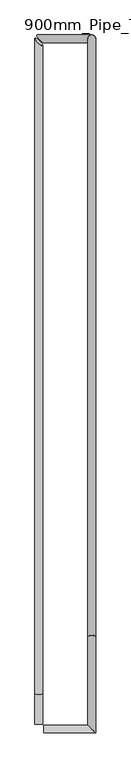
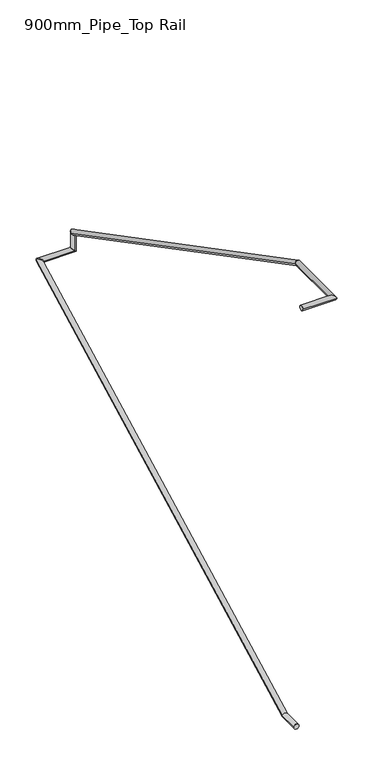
"""IFC4 building model written with IfcOpenShell, lengths in millimetres: railing geometry, 900mm_Pipe_Top Rail."""

from ifc_helpers import new_model, si_unit, frame, origin, place, context, project, spatial, circle_curve, ellipse_curve, source, transform, mapped, element, save
from ifc_brep_helpers import plane_surface, cylinder_surface, advanced_brep


def railing_900mm_pipe_top_rail_91aa5f4a(model_context):
    return source(origin(), model_context, "Body", "AdvancedBrep", [
        advanced_brep(
        [(-12195.3216429, -3435.1012772, -620.0), (-12235.3216429, -3435.1012772, -620.0), (-12195.3216429, 6.4500008, 1098.0104069), (-12235.3216429, 41.8990186, 1116.5405753), (-12195.3216429, -3280.1786038, -620.0), (-12235.3216429, -3280.1786038, -620.0)],
        [
            (0, 1, circle_curve(frame((-12215.3216429, -3435.1012772, -620.0), z_axis=(0.0, -1.0, 0.0), x_axis=(-1.0, 0.0, 0.0)), 20.0)),
            (1, 0, circle_curve(frame((-12215.3216429, -3435.1012772, -620.0), z_axis=(0.0, -1.0, 0.0), x_axis=(-1.0, 0.0, 0.0)), 20.0)),
            (2, 3, ellipse_curve(frame((-12215.3216429, 24.1745097, 1107.2754911), z_axis=(0.7071067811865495, 0.6266560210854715, 0.32757019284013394), x_axis=(0.7071067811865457, -0.6266560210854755, -0.3275701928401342)), 28.2842712, 20.0)),
            (3, 2, ellipse_curve(frame((-12215.3216429, 24.1745097, 1107.2754911), z_axis=(0.7071067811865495, 0.6266560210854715, 0.32757019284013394), x_axis=(0.7071067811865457, -0.6266560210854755, -0.3275701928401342)), 28.2842712, 20.0)),
            (0, 4),
            (4, 5, ellipse_curve(frame((-12215.3216429, -3280.1786038, -620.0), z_axis=(0.0, -0.9711399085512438, -0.23851054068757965), x_axis=(0.0, -0.23851054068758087, 0.9711399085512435)), 20.594355, 20.0)),
            (5, 1),
            (5, 4, ellipse_curve(frame((-12215.3216429, -3280.1786038, -620.0), z_axis=(0.0, -0.9711399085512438, -0.23851054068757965), x_axis=(0.0, -0.23851054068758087, 0.9711399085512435)), 20.594355, 20.0)),
            (4, 2),
            (3, 5),
        ],
        [
            plane_surface(frame((-12215.3216429, -3435.1012772, -600.0), z_axis=(0.0, -1.0, 0.0), x_axis=(0.0, 0.0, 1.0))),
            plane_surface(frame((-12215.3216429, 14.9094255, 1125.0), z_axis=(0.7071067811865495, 0.6266560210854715, 0.32757019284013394), x_axis=(0.7071067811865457, -0.6266560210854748, -0.32757019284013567))),
            cylinder_surface(frame((-12215.3216429, -3435.1012772, -620.0), z_axis=(0.0, -1.0, 0.0), x_axis=(-1.0, 0.0, 0.0)), 20.0),
            cylinder_surface(frame((-12215.3216429, -3275.8254903, -617.7245089), z_axis=(0.0, -0.8862254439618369, -0.4632542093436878), x_axis=(-1.0, 0.0, 0.0)), 20.0),
        ],
        [
            (0, [[1, 2]]),
            (1, [[3, 4]]),
            (2, [[-1, 5, 6, 7]]),
            (2, [[-2, -7, 8, -5]]),
            (3, [[-6, 9, -4, 10]]),
            (3, [[-8, -10, -3, -9]]),
        ],
    ),
        advanced_brep(
        [(-12188.3320499, 19.9094255, 1105.0), (-12223.7810676, 59.9094255, 1105.0), (-11946.7871484, 19.9094255, 1105.0), (-11946.7871484, 59.9094255, 1105.0)],
        [
            (0, 1, ellipse_curve(frame((-12206.0565588, 39.9094255, 1105.0), z_axis=(-0.7071067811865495, -0.6266560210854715, -0.32757019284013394), x_axis=(-0.7071067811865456, 0.6266560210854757, 0.3275701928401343)), 28.2842712, 20.0)),
            (1, 0, ellipse_curve(frame((-12206.0565588, 39.9094255, 1105.0), z_axis=(-0.7071067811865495, -0.6266560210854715, -0.32757019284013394), x_axis=(-0.7071067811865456, 0.6266560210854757, 0.3275701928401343)), 28.2842712, 20.0)),
            (2, 3, ellipse_curve(frame((-11946.7871484, 39.9094255, 1105.0), z_axis=(0.7071067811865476, 0.0, 0.7071067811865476), x_axis=(-0.7071067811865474, 0.0, 0.7071067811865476)), 28.2842712, 20.0)),
            (3, 2, ellipse_curve(frame((-11946.7871484, 39.9094255, 1105.0), z_axis=(0.7071067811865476, 0.0, 0.7071067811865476), x_axis=(-0.7071067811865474, 0.0, 0.7071067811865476)), 28.2842712, 20.0)),
            (0, 2),
            (3, 1),
        ],
        [
            plane_surface(frame((-12215.3216429, 39.9094255, 1125.0), z_axis=(-0.7071067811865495, -0.6266560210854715, -0.32757019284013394), x_axis=(0.7071067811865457, -0.6266560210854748, -0.32757019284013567))),
            plane_surface(frame((-11966.7871484, 39.9094255, 1125.0), z_axis=(0.7071067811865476, 0.0, 0.7071067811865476), x_axis=(0.7071067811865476, 0.0, -0.7071067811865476))),
            cylinder_surface(frame((-12215.3216429, 39.9094255, 1105.0), z_axis=(-1.0, 0.0, 0.0), x_axis=(0.0, 1.0, 0.0)), 20.0),
        ],
        [
            (0, [[1, 2]]),
            (1, [[3, 4]]),
            (2, [[-1, 5, -4, 6]]),
            (2, [[-2, -6, -3, -5]]),
        ],
    ),
        advanced_brep(
        [(-11946.7871484, 19.9094255, 1105.0), (-11946.7871484, 59.9094255, 1105.0), (-11946.7871484, 19.9094255, 1234.0693033), (-11946.7871484, 59.9094255, 1258.2954545)],
        [
            (0, 1, ellipse_curve(frame((-11946.7871484, 39.9094255, 1105.0), z_axis=(-0.7071067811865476, 0.0, -0.7071067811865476), x_axis=(0.7071067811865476, 0.0, -0.7071067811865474)), 28.2842712, 20.0)),
            (1, 0, ellipse_curve(frame((-11946.7871484, 39.9094255, 1105.0), z_axis=(-0.7071067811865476, 0.0, -0.7071067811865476), x_axis=(0.7071067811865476, 0.0, -0.7071067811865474)), 28.2842712, 20.0)),
            (2, 3, ellipse_curve(frame((-11946.7871484, 39.9094255, 1246.1823789), z_axis=(0.0, -0.5180471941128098, 0.8553520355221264), x_axis=(0.0, -0.8553520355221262, -0.5180471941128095)), 23.3821855, 20.0)),
            (3, 2, ellipse_curve(frame((-11946.7871484, 39.9094255, 1246.1823789), z_axis=(0.0, -0.5180471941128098, 0.8553520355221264), x_axis=(0.0, -0.8553520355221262, -0.5180471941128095)), 23.3821855, 20.0)),
            (0, 2),
            (3, 1),
        ],
        [
            plane_surface(frame((-11946.7871484, 39.9094255, 1105.0), z_axis=(-0.7071067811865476, 0.0, -0.7071067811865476), x_axis=(0.7071067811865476, 0.0, -0.7071067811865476))),
            plane_surface(frame((-11946.7871484, 39.9094255, 1246.1823789), z_axis=(0.0, -0.5180471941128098, 0.8553520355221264), x_axis=(1.0, 0.0, 0.0))),
            cylinder_surface(frame((-11946.7871484, 39.9094255, 1105.0), z_axis=(0.0, 0.0, -1.0), x_axis=(0.0, 1.0, 0.0)), 20.0),
        ],
        [
            (0, [[1, 2]]),
            (1, [[3, 4]]),
            (2, [[-1, 5, -4, 6]]),
            (2, [[-2, -6, -3, -5]]),
        ],
    ),
        advanced_brep(
        [(-11966.7871484, 39.9094255, 1246.1823789), (-11926.7871484, 39.9094255, 1246.1823789), (-12190.3216429, -3440.1012772, 2830.0), (-12190.3216429, -3480.1012772, 2830.0), (-11966.7871484, -2990.0025452, 2830.0), (-11926.7871484, -2990.0025452, 2830.0), (-11966.7871484, -3440.1012772, 2830.0), (-11926.7871484, -3480.1012772, 2830.0)],
        [
            (0, 1, ellipse_curve(frame((-11946.7871484, 39.9094255, 1246.1823789), z_axis=(0.0, 0.5180471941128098, -0.8553520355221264), x_axis=(0.0, 0.8553520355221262, 0.5180471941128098)), 23.3821855, 20.0)),
            (1, 0, ellipse_curve(frame((-11946.7871484, 39.9094255, 1246.1823789), z_axis=(0.0, 0.5180471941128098, -0.8553520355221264), x_axis=(0.0, 0.8553520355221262, 0.5180471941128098)), 23.3821855, 20.0)),
            (2, 3, circle_curve(frame((-12190.3216429, -3460.1012772, 2830.0), z_axis=(-1.0, 0.0, 0.0), x_axis=(0.0, -1.0, 0.0)), 20.0)),
            (3, 2, circle_curve(frame((-12190.3216429, -3460.1012772, 2830.0), z_axis=(-1.0, 0.0, 0.0), x_axis=(0.0, -1.0, 0.0)), 20.0)),
            (0, 4),
            (4, 5, ellipse_curve(frame((-11946.7871484, -2990.0025452, 2830.0), z_axis=(0.0, 0.9711399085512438, -0.23851054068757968), x_axis=(0.0, -0.23851054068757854, -0.9711399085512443)), 20.594355, 20.0)),
            (5, 1),
            (5, 4, ellipse_curve(frame((-11946.7871484, -2990.0025452, 2830.0), z_axis=(0.0, 0.9711399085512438, -0.23851054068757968), x_axis=(0.0, -0.23851054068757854, -0.9711399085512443)), 20.594355, 20.0)),
            (4, 6),
            (6, 7, ellipse_curve(frame((-11946.7871484, -3460.1012772, 2830.0), z_axis=(0.7071067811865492, 0.7071067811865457, 0.0), x_axis=(-0.7071067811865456, 0.7071067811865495, 0.0)), 28.2842712, 20.0)),
            (7, 5),
            (7, 6, ellipse_curve(frame((-11946.7871484, -3460.1012772, 2830.0), z_axis=(0.7071067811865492, 0.7071067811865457, 0.0), x_axis=(-0.7071067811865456, 0.7071067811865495, 0.0)), 28.2842712, 20.0)),
            (6, 2),
            (3, 7),
        ],
        [
            plane_surface(frame((-11946.7871484, 59.9094255, 1258.2954545), z_axis=(0.0, 0.5180471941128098, -0.8553520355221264), x_axis=(1.0, 0.0, 0.0))),
            plane_surface(frame((-12190.3216429, -3460.1012772, 2850.0), z_axis=(-1.0, 0.0, 0.0), x_axis=(0.0, -1.0, 0.0))),
            cylinder_surface(frame((-11946.7871484, 50.6443413, 1240.5709457), z_axis=(0.0, 0.8862254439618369, -0.46325420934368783), x_axis=(1.0, 0.0, 0.0)), 20.0),
            cylinder_surface(frame((-11946.7871484, -2985.0905745, 2830.0), z_axis=(0.0, 1.0, 0.0), x_axis=(1.0, 0.0, 0.0)), 20.0),
            cylinder_surface(frame((-11946.7871484, -3460.1012772, 2830.0), z_axis=(1.0, 0.0, 0.0), x_axis=(0.0, -1.0, 0.0)), 20.0),
        ],
        [
            (0, [[1, 2]]),
            (1, [[3, 4]]),
            (2, [[-1, 5, 6, 7]]),
            (2, [[-2, -7, 8, -5]]),
            (3, [[-6, 9, 10, 11]]),
            (3, [[-8, -11, 12, -9]]),
            (4, [[-10, 13, -4, 14]]),
            (4, [[-12, -14, -3, -13]]),
        ],
    ),
    ])


if __name__ == "__main__":
    model = new_model("IFC4")
    model_context = context("Model", 3, world=origin())
    ifc_project = project(units=[si_unit("LENGTHUNIT", "METRE", prefix="MILLI")], contexts=[model_context])
    site = spatial("IfcSite", under=ifc_project)
    building = spatial("IfcBuilding", under=site)
    placement = place(None, origin())
    railing_900mm_pipe_top_rail_shape = railing_900mm_pipe_top_rail_91aa5f4a(model_context)
    element("IfcRailing", 1, ObjectType="900mm_Pipe_Top Rail", at=placement, inside=building, context=model_context, shape_type="MappedRepresentation", body=[
        mapped(railing_900mm_pipe_top_rail_shape, transform((0.0, 0.0, 0.0), x_axis=(1.0, 0.0, 0.0), y_axis=(0.0, 1.0, 0.0), z_axis=(0.0, 0.0, 1.0))),
    ])
    save(model, "model.ifc")
